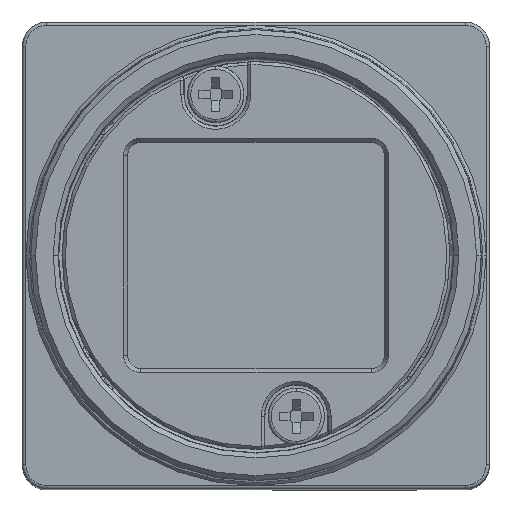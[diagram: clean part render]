
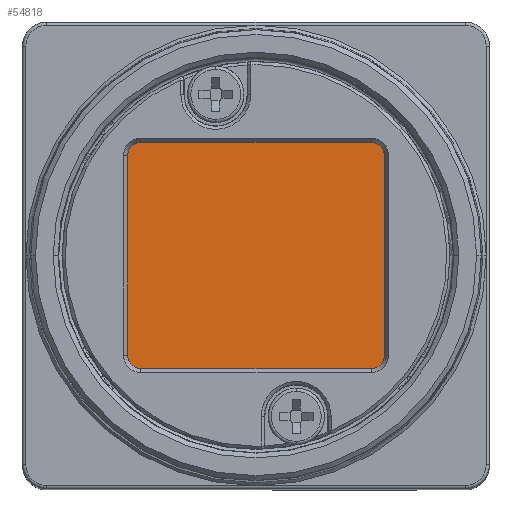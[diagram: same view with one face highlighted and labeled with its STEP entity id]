
A CAD part, top view. The second image highlights one B-rep face of the part: STEP entity #54818.
In plain terms, the highlighted planar face has unit normal (0, 0, 1).
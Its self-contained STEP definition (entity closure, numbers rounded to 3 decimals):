
#20773=DIRECTION('',(-1.,0.,0.));
#20774=VECTOR('',#20773,14.3);
#20775=CARTESIAN_POINT('',(7.15,7.03,-0.85));
#20776=LINE('',#20775,#20774);
#20780=CARTESIAN_POINT('',(7.15,6.2,-0.85));
#20781=DIRECTION('',(0.,0.,1.));
#20782=DIRECTION('',(1.,0.,0.));
#20783=AXIS2_PLACEMENT_3D('',#20780,#20781,#20782);
#20788=DIRECTION('',(0.,1.,0.));
#20789=VECTOR('',#20788,12.4);
#20790=CARTESIAN_POINT('',(7.98,-6.2,-0.85));
#20791=LINE('',#20790,#20789);
#20795=CARTESIAN_POINT('',(7.15,-6.2,-0.85));
#20796=DIRECTION('',(0.,0.,1.));
#20797=DIRECTION('',(0.,-1.,0.));
#20798=AXIS2_PLACEMENT_3D('',#20795,#20796,#20797);
#20803=DIRECTION('',(1.,0.,0.));
#20804=VECTOR('',#20803,14.3);
#20805=CARTESIAN_POINT('',(-7.15,-7.03,-0.85));
#20806=LINE('',#20805,#20804);
#20810=CARTESIAN_POINT('',(-7.15,-6.2,-0.85));
#20811=DIRECTION('',(0.,0.,1.));
#20812=DIRECTION('',(-1.,0.,0.));
#20813=AXIS2_PLACEMENT_3D('',#20810,#20811,#20812);
#20818=DIRECTION('',(0.,-1.,0.));
#20819=VECTOR('',#20818,12.4);
#20820=CARTESIAN_POINT('',(-7.98,6.2,-0.85));
#20821=LINE('',#20820,#20819);
#20825=CARTESIAN_POINT('',(-7.15,6.2,-0.85));
#20826=DIRECTION('',(0.,0.,1.));
#20827=DIRECTION('',(0.,1.,0.));
#20828=AXIS2_PLACEMENT_3D('',#20825,#20826,#20827);
#33605=CARTESIAN_POINT('',(7.15,7.03,-0.85));
#33606=CARTESIAN_POINT('',(-7.15,7.03,-0.85));
#33607=VERTEX_POINT('',#33605);
#33608=VERTEX_POINT('',#33606);
#33609=CARTESIAN_POINT('',(-7.98,6.2,-0.85));
#33610=VERTEX_POINT('',#33609);
#33611=CARTESIAN_POINT('',(-7.98,-6.2,-0.85));
#33612=VERTEX_POINT('',#33611);
#33613=CARTESIAN_POINT('',(-7.15,-7.03,-0.85));
#33614=VERTEX_POINT('',#33613);
#33615=CARTESIAN_POINT('',(7.15,-7.03,-0.85));
#33616=VERTEX_POINT('',#33615);
#33617=CARTESIAN_POINT('',(7.98,-6.2,-0.85));
#33618=VERTEX_POINT('',#33617);
#33619=CARTESIAN_POINT('',(7.98,6.2,-0.85));
#33620=VERTEX_POINT('',#33619);
#54795=CARTESIAN_POINT('',(0.,0.,-0.85));
#54796=DIRECTION('',(0.,0.,1.));
#54797=DIRECTION('',(1.,0.,0.));
#54798=AXIS2_PLACEMENT_3D('',#54795,#54796,#54797);
#54799=PLANE('',#54798);
#54801=ORIENTED_EDGE('',*,*,#54800,.F.);
#54803=ORIENTED_EDGE('',*,*,#54802,.F.);
#54805=ORIENTED_EDGE('',*,*,#54804,.F.);
#54807=ORIENTED_EDGE('',*,*,#54806,.F.);
#54809=ORIENTED_EDGE('',*,*,#54808,.F.);
#54811=ORIENTED_EDGE('',*,*,#54810,.F.);
#54813=ORIENTED_EDGE('',*,*,#54812,.F.);
#54815=ORIENTED_EDGE('',*,*,#54814,.F.);
#54816=EDGE_LOOP('',(#54801,#54803,#54805,#54807,#54809,#54811,#54813,#54815));
#54817=FACE_OUTER_BOUND('',#54816,.F.);
#54818=ADVANCED_FACE('',(#54817),#54799,.T.);
#20784=CIRCLE('',#20783,0.83);
#20799=CIRCLE('',#20798,0.83);
#20814=CIRCLE('',#20813,0.83);
#20829=CIRCLE('',#20828,0.83);
#54800=EDGE_CURVE('',#33607,#33608,#20776,.T.);
#54802=EDGE_CURVE('',#33620,#33607,#20784,.T.);
#54804=EDGE_CURVE('',#33618,#33620,#20791,.T.);
#54806=EDGE_CURVE('',#33616,#33618,#20799,.T.);
#54808=EDGE_CURVE('',#33614,#33616,#20806,.T.);
#54810=EDGE_CURVE('',#33612,#33614,#20814,.T.);
#54812=EDGE_CURVE('',#33610,#33612,#20821,.T.);
#54814=EDGE_CURVE('',#33608,#33610,#20829,.T.);
